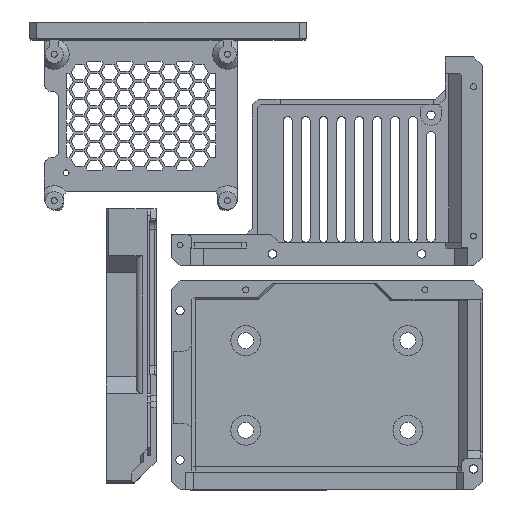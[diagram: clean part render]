
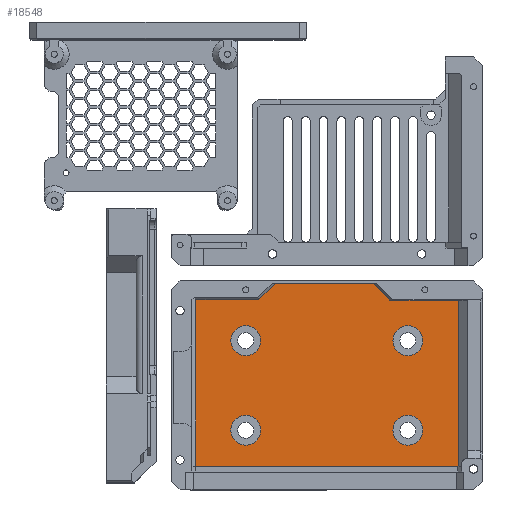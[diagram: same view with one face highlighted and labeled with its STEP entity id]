
A CAD part, top view. The second image highlights one B-rep face of the part: STEP entity #18548.
In plain terms, the highlighted planar face has unit normal (0, 0, 1).
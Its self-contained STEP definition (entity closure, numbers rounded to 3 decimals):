
#256=LINE('',#25866,#2631);
#492=LINE('',#26730,#2867);
#494=LINE('',#26734,#2869);
#496=LINE('',#26738,#2871);
#498=LINE('',#26742,#2873);
#501=LINE('',#26747,#2876);
#502=LINE('',#26749,#2877);
#505=LINE('',#26754,#2880);
#2631=VECTOR('',#20836,10.);
#2867=VECTOR('',#21350,10.);
#2869=VECTOR('',#21354,10.);
#2871=VECTOR('',#21358,10.);
#2873=VECTOR('',#21362,10.);
#2876=VECTOR('',#21367,10.);
#2877=VECTOR('',#21370,10.);
#2880=VECTOR('',#21377,10.);
#5048=FACE_BOUND('',#6372,.T.);
#5049=FACE_BOUND('',#6373,.T.);
#5050=FACE_BOUND('',#6374,.T.);
#5051=FACE_BOUND('',#6375,.T.);
#5377=FACE_OUTER_BOUND('',#6371,.T.);
#6371=EDGE_LOOP('',(#12915,#12916,#12917,#12918,#12919,#12920,#12921,#12922));
#6372=EDGE_LOOP('',(#12923));
#6373=EDGE_LOOP('',(#12924));
#6374=EDGE_LOOP('',(#12925));
#6375=EDGE_LOOP('',(#12926));
#7375=CIRCLE('',#19430,5.);
#7379=CIRCLE('',#19437,5.);
#7383=CIRCLE('',#19444,5.);
#7387=CIRCLE('',#19451,5.);
#7642=VERTEX_POINT('',#25530);
#7646=VERTEX_POINT('',#25543);
#7650=VERTEX_POINT('',#25556);
#7654=VERTEX_POINT('',#25569);
#7710=VERTEX_POINT('',#25864);
#7711=VERTEX_POINT('',#25865);
#7889=VERTEX_POINT('',#26727);
#7890=VERTEX_POINT('',#26729);
#7891=VERTEX_POINT('',#26733);
#7892=VERTEX_POINT('',#26737);
#7893=VERTEX_POINT('',#26741);
#7894=VERTEX_POINT('',#26745);
#9395=EDGE_CURVE('',#7642,#7642,#7375,.T.);
#9401=EDGE_CURVE('',#7646,#7646,#7379,.T.);
#9407=EDGE_CURVE('',#7650,#7650,#7383,.T.);
#9413=EDGE_CURVE('',#7654,#7654,#7387,.T.);
#9491=EDGE_CURVE('',#7710,#7711,#256,.T.);
#9784=EDGE_CURVE('',#7889,#7890,#492,.T.);
#9786=EDGE_CURVE('',#7890,#7891,#494,.T.);
#9788=EDGE_CURVE('',#7891,#7892,#496,.T.);
#9790=EDGE_CURVE('',#7893,#7892,#498,.T.);
#9793=EDGE_CURVE('',#7893,#7894,#501,.T.);
#9794=EDGE_CURVE('',#7894,#7711,#502,.F.);
#9797=EDGE_CURVE('',#7889,#7710,#505,.T.);
#12915=ORIENTED_EDGE('',*,*,#9491,.T.);
#12916=ORIENTED_EDGE('',*,*,#9794,.F.);
#12917=ORIENTED_EDGE('',*,*,#9793,.F.);
#12918=ORIENTED_EDGE('',*,*,#9790,.T.);
#12919=ORIENTED_EDGE('',*,*,#9788,.F.);
#12920=ORIENTED_EDGE('',*,*,#9786,.F.);
#12921=ORIENTED_EDGE('',*,*,#9784,.F.);
#12922=ORIENTED_EDGE('',*,*,#9797,.T.);
#12923=ORIENTED_EDGE('',*,*,#9395,.T.);
#12924=ORIENTED_EDGE('',*,*,#9401,.T.);
#12925=ORIENTED_EDGE('',*,*,#9407,.T.);
#12926=ORIENTED_EDGE('',*,*,#9413,.T.);
#17685=PLANE('',#19624);
#18548=ADVANCED_FACE('',(#5377,#5048,#5049,#5050,#5051),#17685,.F.);
#19430=AXIS2_PLACEMENT_3D('',#25531,#20677,#20678);
#19437=AXIS2_PLACEMENT_3D('',#25544,#20693,#20694);
#19444=AXIS2_PLACEMENT_3D('',#25557,#20709,#20710);
#19451=AXIS2_PLACEMENT_3D('',#25570,#20725,#20726);
#19624=AXIS2_PLACEMENT_3D('',#26755,#21378,#21379);
#20677=DIRECTION('center_axis',(0.,0.,
-1.));
#20678=DIRECTION('ref_axis',(1.,0.,0.));
#20693=DIRECTION('center_axis',(0.,0.,
-1.));
#20694=DIRECTION('ref_axis',(1.,0.,0.));
#20709=DIRECTION('center_axis',(0.,0.,
-1.));
#20710=DIRECTION('ref_axis',(1.,0.,0.));
#20725=DIRECTION('center_axis',(0.,0.,
-1.));
#20726=DIRECTION('ref_axis',(1.,0.,0.));
#20836=DIRECTION('',(-0.707,0.707,0.));
#21350=DIRECTION('',(0.,-1.,0.));
#21354=DIRECTION('',(-1.,0.,0.));
#21358=DIRECTION('',(0.,1.,0.));
#21362=DIRECTION('',(-1.,0.,0.));
#21367=DIRECTION('',(0.707,0.707,0.));
#21370=DIRECTION('',(-1.,0.,0.));
#21377=DIRECTION('',(-1.,0.,0.));
#21378=DIRECTION('center_axis',(0.,0.,
-1.));
#21379=DIRECTION('ref_axis',(-1.,0.,0.));
#25530=CARTESIAN_POINT('',(155.776,32.231,-0.1));
#25531=CARTESIAN_POINT('Origin',(160.776,32.231,-0.1));
#25543=CARTESIAN_POINT('',(101.496,2.231,-0.1));
#25544=CARTESIAN_POINT('Origin',(106.496,2.231,-0.1));
#25556=CARTESIAN_POINT('',(155.776,2.231,-0.1));
#25557=CARTESIAN_POINT('Origin',(160.776,2.231,-0.1));
#25569=CARTESIAN_POINT('',(101.496,32.231,-0.1));
#25570=CARTESIAN_POINT('Origin',(106.496,32.231,-0.1));
#25864=CARTESIAN_POINT('',(154.715,45.831,-0.1));
#25865=CARTESIAN_POINT('',(149.115,51.431,-0.1));
#25866=CARTESIAN_POINT('',(153.58,46.966,-0.1));
#26727=CARTESIAN_POINT('',(177.776,45.831,-0.1));
#26729=CARTESIAN_POINT('',(177.776,-9.769,-0.1));
#26730=CARTESIAN_POINT('',(177.776,-13.769,-0.1));
#26733=CARTESIAN_POINT('',(89.796,-9.769,-0.1));
#26734=CARTESIAN_POINT('',(178.368,-9.769,-0.1));
#26737=CARTESIAN_POINT('',(89.796,45.924,-0.1));
#26738=CARTESIAN_POINT('',(89.796,23.981,-0.1));
#26741=CARTESIAN_POINT('',(110.876,45.924,-0.1));
#26742=CARTESIAN_POINT('',(150.001,45.924,-0.1));
#26745=CARTESIAN_POINT('',(116.383,51.431,-0.1));
#26747=CARTESIAN_POINT('',(115.755,50.802,-0.1));
#26749=CARTESIAN_POINT('',(139.109,51.431,-0.1));
#26754=CARTESIAN_POINT('',(133.636,45.831,-0.1));
#26755=CARTESIAN_POINT('Origin',(123.817,30.731,-0.1));
